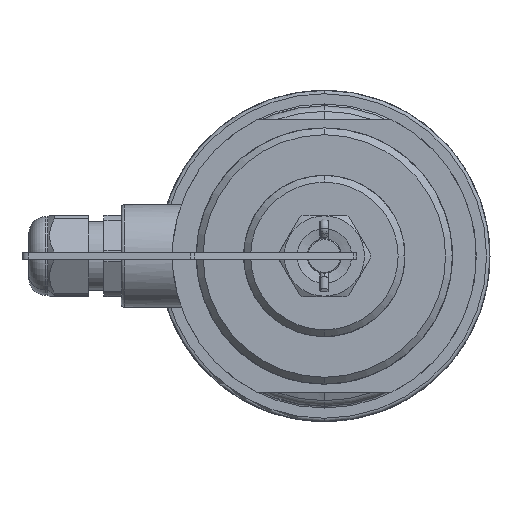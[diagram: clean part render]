
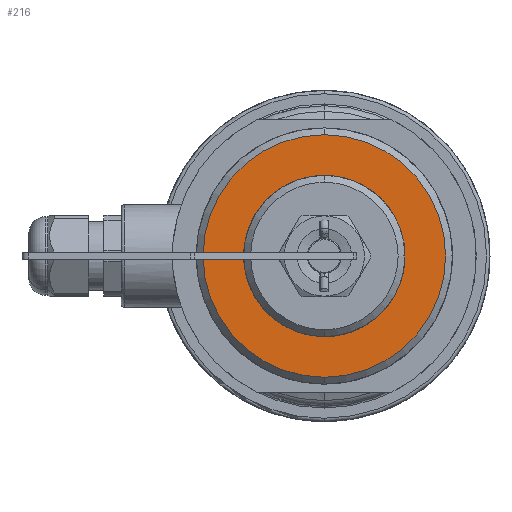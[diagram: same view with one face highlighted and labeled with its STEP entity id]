
A CAD part, front view. The second image highlights one B-rep face of the part: STEP entity #216.
In plain terms, the highlighted planar face has unit normal (0, -1, 0).
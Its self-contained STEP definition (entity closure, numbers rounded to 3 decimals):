
#216 = ADVANCED_FACE ( 'NONE', ( #1477, #7896 ), #14315, .F. ) ;
#744 = EDGE_CURVE ( 'NONE', #12944, #9408, #9006, .T. ) ;
#1229 = CARTESIAN_POINT ( 'NONE',  ( 20.723, 97.5, 11.292 ) ) ;
#1246 = EDGE_LOOP ( 'NONE', ( #9281, #3408 ) ) ;
#1397 = ORIENTED_EDGE ( 'NONE', *, *, #744, .T. ) ;
#1477 = FACE_OUTER_BOUND ( 'NONE', #1246, .T. ) ;
#2268 = AXIS2_PLACEMENT_3D ( 'NONE', #20701, #6308, #12727 ) ;
#2566 = DIRECTION ( 'NONE',  ( 0., 1., 0. ) ) ;
#3018 = CARTESIAN_POINT ( 'NONE',  ( 0., 97.5, 0. ) ) ;
#3408 = ORIENTED_EDGE ( 'NONE', *, *, #15082, .T. ) ;
#3816 = DIRECTION ( 'NONE',  ( 0., 0., 1. ) ) ;
#4259 = VERTEX_POINT ( 'NONE', #12360 ) ;
#4398 = DIRECTION ( 'NONE',  ( 0., 0., 1. ) ) ;
#6308 = DIRECTION ( 'NONE',  ( 0., 1., 0. ) ) ;
#7366 = EDGE_CURVE ( 'NONE', #9408, #12944, #19076, .T. ) ;
#7896 = FACE_BOUND ( 'NONE', #8443, .T. ) ;
#7907 = AXIS2_PLACEMENT_3D ( 'NONE', #12387, #18796, #4398 ) ;
#8443 = EDGE_LOOP ( 'NONE', ( #10330, #1397 ) ) ;
#8980 = DIRECTION ( 'NONE',  ( 0., 0., 1. ) ) ;
#9006 = CIRCLE ( 'NONE', #18062, 23.6 ) ;
#9281 = ORIENTED_EDGE ( 'NONE', *, *, #19661, .T. ) ;
#9408 = VERTEX_POINT ( 'NONE', #1229 ) ;
#9437 = DIRECTION ( 'NONE',  ( 0., -1., 0. ) ) ;
#9857 = AXIS2_PLACEMENT_3D ( 'NONE', #3018, #9437, #15857 ) ;
#10013 = AXIS2_PLACEMENT_3D ( 'NONE', #11805, #18217, #3816 ) ;
#10330 = ORIENTED_EDGE ( 'NONE', *, *, #7366, .T. ) ;
#11805 = CARTESIAN_POINT ( 'NONE',  ( 0., 97.5, 0. ) ) ;
#12360 = CARTESIAN_POINT ( 'NONE',  ( 0., 97.5, 35.5 ) ) ;
#12387 = CARTESIAN_POINT ( 'NONE',  ( 0., 97.5, 0. ) ) ;
#12727 = DIRECTION ( 'NONE',  ( 0., 0., 1. ) ) ;
#12944 = VERTEX_POINT ( 'NONE', #14787 ) ;
#14315 = PLANE ( 'NONE',  #2268 ) ;
#14787 = CARTESIAN_POINT ( 'NONE',  ( 6.606, 97.5, 22.657 ) ) ;
#15082 = EDGE_CURVE ( 'NONE', #17844, #4259, #18925, .T. ) ;
#15857 = DIRECTION ( 'NONE',  ( 0., 0., 1. ) ) ;
#16979 = CARTESIAN_POINT ( 'NONE',  ( 0., 97.5, 0. ) ) ;
#16989 = CIRCLE ( 'NONE', #7907, 35.5 ) ;
#17844 = VERTEX_POINT ( 'NONE', #20248 ) ;
#18062 = AXIS2_PLACEMENT_3D ( 'NONE', #16979, #2566, #8980 ) ;
#18217 = DIRECTION ( 'NONE',  ( 0., 1., 0. ) ) ;
#18796 = DIRECTION ( 'NONE',  ( 0., -1., 0. ) ) ;
#18925 = CIRCLE ( 'NONE', #9857, 35.5 ) ;
#19076 = CIRCLE ( 'NONE', #10013, 23.6 ) ;
#19661 = EDGE_CURVE ( 'NONE', #4259, #17844, #16989, .T. ) ;
#20248 = CARTESIAN_POINT ( 'NONE',  ( 0., 97.5, -35.5 ) ) ;
#20701 = CARTESIAN_POINT ( 'NONE',  ( 37.5, 97.5, 0. ) ) ;
